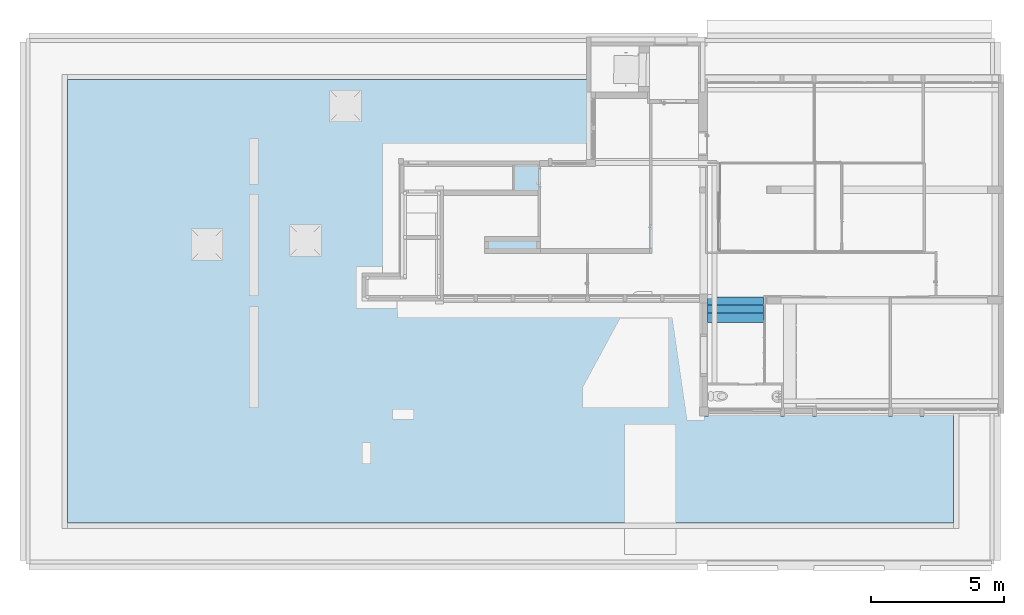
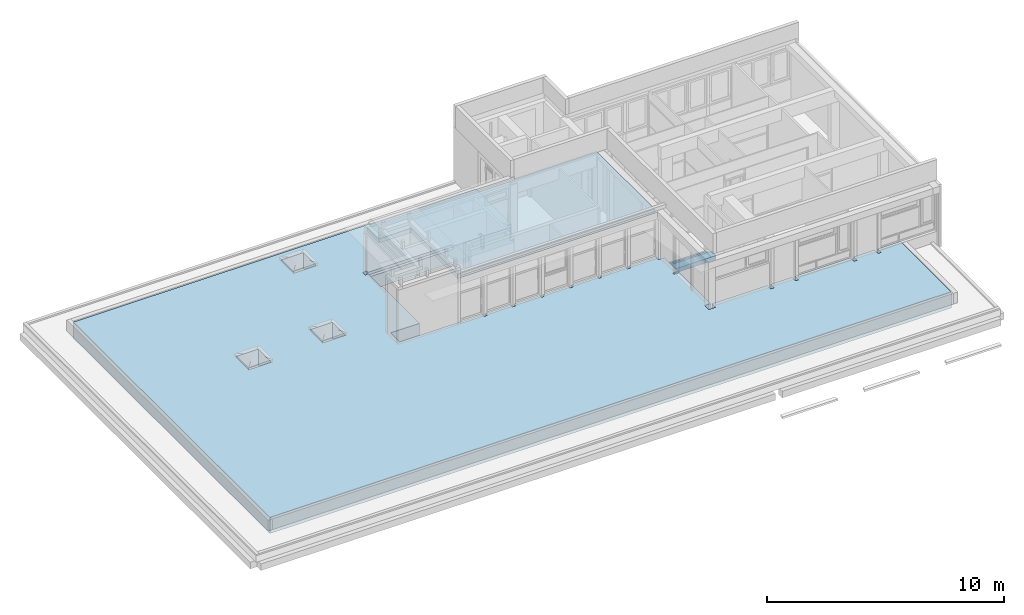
# One storey, part 37 of 49: 2 roofs, 1 stair.
"""IFC4 building model written with IfcOpenShell, lengths in metres."""

from ifc_helpers import new_model, entity, si_unit, converted_unit, derived_unit, direction, frame, origin, place, context, subcontext, project, spatial, polygons, material, layer, layer_set, type_object, element, save


model = new_model("IFC4")

# Units and contexts
model_context = context("Model", 3, precision=1e-05, world=origin(), true_north=direction((6.12303176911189e-17, 1.0)))
body_context = subcontext(model_context, "Body", "Model", "MODEL_VIEW")
ifc_project = project(units=[si_unit("LENGTHUNIT", "METRE"), si_unit("AREAUNIT", "SQUARE_METRE"), si_unit("VOLUMEUNIT", "CUBIC_METRE"), converted_unit("PLANEANGLEUNIT", "DEGREE", entity("IfcRatioMeasure", 0.0174532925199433), si_unit("PLANEANGLEUNIT", "RADIAN"), dimensions=[0, 0, 0, 0, 0, 0, 0]), si_unit("MASSUNIT", "GRAM", prefix="KILO"), derived_unit("MASSDENSITYUNIT", [(si_unit("MASSUNIT", "GRAM", prefix="KILO"), 1), (si_unit("LENGTHUNIT", "METRE"), -3)]), derived_unit("MOMENTOFINERTIAUNIT", [(si_unit("LENGTHUNIT", "METRE"), 4)]), si_unit("TIMEUNIT", "SECOND"), si_unit("FREQUENCYUNIT", "HERTZ"), si_unit("THERMODYNAMICTEMPERATUREUNIT", "DEGREE_CELSIUS"), derived_unit("THERMALTRANSMITTANCEUNIT", [(si_unit("MASSUNIT", "GRAM", prefix="KILO"), 1), (si_unit("THERMODYNAMICTEMPERATUREUNIT", "KELVIN"), -1), (si_unit("TIMEUNIT", "SECOND"), -3)]), derived_unit("VOLUMETRICFLOWRATEUNIT", [(si_unit("LENGTHUNIT", "METRE"), 3), (si_unit("TIMEUNIT", "SECOND"), -1)]), si_unit("ELECTRICCURRENTUNIT", "AMPERE"), si_unit("ELECTRICVOLTAGEUNIT", "VOLT"), si_unit("POWERUNIT", "WATT"), si_unit("FORCEUNIT", "NEWTON", prefix="KILO"), si_unit("ILLUMINANCEUNIT", "LUX"), si_unit("LUMINOUSFLUXUNIT", "LUMEN"), si_unit("LUMINOUSINTENSITYUNIT", "CANDELA"), derived_unit("USERDEFINED", [(si_unit("MASSUNIT", "GRAM", prefix="KILO"), -1), (si_unit("LENGTHUNIT", "METRE"), -2), (si_unit("TIMEUNIT", "SECOND"), 3), (si_unit("LUMINOUSFLUXUNIT", "LUMEN"), 1)]), derived_unit("LINEARVELOCITYUNIT", [(si_unit("LENGTHUNIT", "METRE"), 1), (si_unit("TIMEUNIT", "SECOND"), -1)]), si_unit("PRESSUREUNIT", "PASCAL"), derived_unit("USERDEFINED", [(si_unit("LENGTHUNIT", "METRE"), -2), (si_unit("MASSUNIT", "GRAM", prefix="KILO"), 1), (si_unit("TIMEUNIT", "SECOND"), -2)]), derived_unit("LINEARFORCEUNIT", [(si_unit("MASSUNIT", "GRAM", prefix="KILO"), 1), (si_unit("LENGTHUNIT", "METRE"), 1), (si_unit("TIMEUNIT", "SECOND"), -2), (si_unit("LENGTHUNIT", "METRE"), -1)]), derived_unit("PLANARFORCEUNIT", [(si_unit("MASSUNIT", "GRAM", prefix="KILO"), 1), (si_unit("LENGTHUNIT", "METRE"), 1), (si_unit("TIMEUNIT", "SECOND"), -2), (si_unit("LENGTHUNIT", "METRE"), -2)])], contexts=[model_context])

# Site, building, storey
site_placement = place(None, origin())
site = spatial("IfcSite", under=ifc_project, at=site_placement, Name="Default", CompositionType="ELEMENT")
building_placement = place(site_placement, origin())
building = spatial("IfcBuilding", under=site, at=building_placement, Name="HOTEL CONSULAIRE BOULOGNE SUR MER", CompositionType="ELEMENT")
storey_placement = place(building_placement, frame((0.0, 0.0, 6.81974152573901)))
storey = spatial("IfcBuildingStorey", under=building, at=storey_placement, Name="Niveau 2", CompositionType="ELEMENT", Elevation=6.81974152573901)

# Stair
stair_type = type_object("IfcStairType", Name="Escalier coulé sur place:Monobloc 2", PredefinedType="STRAIGHT_RUN_STAIR")
stair_placement = place(storey_placement, frame((11.6719435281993, -20.615909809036, 0.0)))
element("IfcStair", 1, at=stair_placement, inside=storey, type_object=stair_type, Name="Escalier coulé sur place:Escalier", ObjectType="Escalier coulé sur place:Monobloc 2", PredefinedType="STRAIGHT_RUN_STAIR", context=body_context, shape_type="Tessellation", body=[
    polygons([(2.09710613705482, 0.635658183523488, 0.13125), (2.09710613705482, 0.96565818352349, 0.13125), (6.49720277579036e-15, 0.965658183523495, 0.13125), (4.33146851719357e-15, 0.635658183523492, 0.13125), (2.09710613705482, 0.635658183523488, 0.101250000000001), (4.33146851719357e-15, 0.635658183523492, 0.101250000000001), (6.49720277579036e-15, 0.965658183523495, 0.101250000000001), (2.09710613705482, 0.96565818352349, 0.101250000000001)], [[[4, 1, 2, 3]], [[7, 8, 5, 6]], [[2, 1, 5, 8]], [[3, 2, 8, 7]], [[4, 3, 7, 6]], [[1, 4, 6, 5]]], closed=True),
    polygons([(2.09710613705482, 0.335658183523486, 0.297499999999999), (2.09710613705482, 0.665658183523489, 0.297499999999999), (4.33146851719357e-15, 0.665658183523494, 0.297499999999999), (2.16573425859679e-15, 0.335658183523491, 0.297499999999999), (2.09710613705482, 0.335658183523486, 0.2675), (2.16573425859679e-15, 0.335658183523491, 0.2675), (4.33146851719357e-15, 0.665658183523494, 0.2675), (2.09710613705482, 0.665658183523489, 0.2675)], [[[4, 1, 2, 3]], [[7, 8, 5, 6]], [[2, 1, 5, 8]], [[3, 2, 8, 7]], [[4, 3, 7, 6]], [[1, 4, 6, 5]]], closed=True),
    polygons([(2.09710613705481, 0.0, 0.46375), (2.09710613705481, 0.365658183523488, 0.46375), (2.16573425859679e-15, 0.365658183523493, 0.46375), (0.0, 4.33146851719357e-15, 0.46375), (2.09710613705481, 0.0, 0.43375), (0.0, 4.33146851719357e-15, 0.43375), (2.16573425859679e-15, 0.365658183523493, 0.43375), (2.09710613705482, 0.365658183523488, 0.43375)], [[[4, 1, 2, 3]], [[7, 8, 5, 6]], [[2, 1, 5, 8]], [[3, 2, 8, 7]], [[4, 3, 7, 6]], [[1, 4, 6, 5]]], closed=True),
    polygons([(2.09710613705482, 0.635658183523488, 0.101250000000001), (2.09710613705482, 0.935658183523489, 0.101250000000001), (6.49720277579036e-15, 0.935658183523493, 0.101250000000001), (4.33146851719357e-15, 0.635658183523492, 0.101250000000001), (2.09710613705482, 0.635658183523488, -0.0349999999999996), (2.09710613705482, 0.935658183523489, -0.0349999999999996), (6.49720277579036e-15, 0.935658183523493, -0.0349999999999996), (4.33146851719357e-15, 0.635658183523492, -0.0349999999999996), (2.09710613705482, 0.335658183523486, 0.2675), (2.09710613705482, 0.635658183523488, 0.2675), (6.49720277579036e-15, 0.635658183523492, 0.2675), (4.33146851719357e-15, 0.335658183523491, 0.2675), (2.09710613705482, 0.335658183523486, 0.061708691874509), (2.09710613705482, 0.510170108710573, -0.0349999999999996), (6.49720277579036e-15, 0.510170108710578, -0.0350000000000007), (4.33146851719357e-15, 0.335658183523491, 0.0617086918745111), (2.09710613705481, 0.0, 0.247719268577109), (0.0, 0.0, 0.247719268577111), (2.09710613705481, 0.0, 0.43375), (2.09710613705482, 0.335658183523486, 0.43375), (2.16573425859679e-15, 0.335658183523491, 0.43375), (0.0, 4.33146851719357e-15, 0.43375)], [[[4, 1, 2, 3]], [[12, 9, 10, 11]], [[22, 19, 20, 21]], [[2, 1, 10, 9, 20, 19, 17, 13, 14, 5, 6]], [[3, 2, 6, 7]], [[11, 10, 1, 4]], [[21, 20, 9, 12]], [[4, 3, 7, 8, 15, 16, 18, 22, 21, 12, 11]], [[8, 7, 6, 5, 14, 15]], [[16, 15, 14, 13, 17, 18]], [[19, 22, 18, 17]]], closed=True),
])

# Roofs
ifc_material_1 = material(Name="carrelage Ext")
ifc_layer_1 = layer(ifc_material_1, 0.05, Name="carrelage Ext")
ifc_material_2 = material(Name="plot")
ifc_layer_2 = layer(ifc_material_2, 0.45, Name="plot")
ifc_material_3 = material(Name="Protection humidité", Category="Isolation")
ifc_layer_3 = layer(ifc_material_3, 0.03, Name="Protection humidité", Category="Isolation")
ifc_material_4 = material(Name="Maçonnerie - Isolant", Category="Divers")
ifc_layer_4 = layer(ifc_material_4, 0.1, Name="Maçonnerie - Isolant", Category="Divers")
ifc_material_5 = material(Name="Béton - Béton coulé sur place", Category="Béton")
ifc_layer_5 = layer(ifc_material_5, 0.2, Name="Béton - Béton coulé sur place", Category="Béton")
ifc_layer_set_1 = layer_set([ifc_layer_1, ifc_layer_2, ifc_layer_3, ifc_layer_4, ifc_layer_5], Name="Toit de base:Toit - 200 mm 3")
roof_type_1 = type_object("IfcRoofType", Name="Toit de base:Toit - 200 mm 3", PredefinedType="NOTDEFINED")
roof_1_placement = place(storey_placement, frame((-12.3498681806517, -28.1378463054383, -0.187999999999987)))
element("IfcRoof", 2, at=roof_1_placement, inside=storey, type_object=roof_type_1, material=ifc_layer_set_1, Name="Toit de base:Toit - 200 mm 3", ObjectType="Toit de base:Toit - 200 mm 3", PredefinedType="NOTDEFINED", context=body_context, shape_type="Tessellation", body=[
    polygons([(11.2145032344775, 8.47293194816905, 0.0), (11.2145032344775, 8.47293194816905, 0.83), (13.977339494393, 8.47293194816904, 0.83), (14.107339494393, 8.47293194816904, 0.83), (15.2540797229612, 8.47293194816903, 0.83), (15.2540797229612, 8.47293194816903, 0.187999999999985), (14.107339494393, 8.47293194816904, 0.187999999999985), (14.029875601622, 8.47293194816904, 0.187999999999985), (14.029875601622, 8.47293194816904, 0.0), (16.6540797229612, 8.47293194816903, 0.83), (16.6540797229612, 8.47293194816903, 0.187999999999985), (15.3940797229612, 8.47293194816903, 0.187999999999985), (15.3940797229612, 8.47293194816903, 0.83), (18.0540797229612, 8.47293194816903, 0.83), (18.0540797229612, 8.47293194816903, 0.187999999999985), (16.7940797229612, 8.47293194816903, 0.187999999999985), (16.7940797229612, 8.47293194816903, 0.83), (19.4540797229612, 8.47293194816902, 0.83), (19.4540797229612, 8.47293194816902, 0.187999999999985), (18.1940797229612, 8.47293194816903, 0.187999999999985), (18.1940797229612, 8.47293194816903, 0.83), (20.8540797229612, 8.47293194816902, 0.83), (20.8540797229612, 8.47293194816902, 0.187999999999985), (19.5940797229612, 8.47293194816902, 0.187999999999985), (19.5940797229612, 8.47293194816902, 0.83), (22.2540797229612, 8.47293194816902, 0.83), (22.2540797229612, 8.47293194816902, 0.187999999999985), (20.9940797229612, 8.47293194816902, 0.187999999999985), (20.9940797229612, 8.47293194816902, 0.83), (23.7218117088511, 8.47293194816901, 0.83), (23.7218117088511, 8.47293194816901, 0.187999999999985), (22.3940797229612, 8.47293194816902, 0.187999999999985), (22.3940797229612, 8.47293194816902, 0.83), (24.0218117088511, 4.31074554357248, 0.0), (24.4263460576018, 4.31074554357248, 0.0), (24.6763460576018, 4.31074554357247, 0.0), (33.2527433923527, 4.31074554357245, 0.0), (33.2527433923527, 4.11074554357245, 0.0), (33.2527433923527, 0.0, 0.0), (-2.16573425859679e-15, 1.08286712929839e-13, 0.0), (2.59888111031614e-14, 16.6322125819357, 0.0), (19.4788484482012, 16.6322125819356, 0.0), (19.6588484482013, 16.6322125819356, 0.0), (19.6588484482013, 16.1670549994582, 0.0), (19.6588484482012, 13.6449353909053, 0.0), (19.6588484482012, 13.4249353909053, 0.0), (12.6415032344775, 13.4249353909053, 0.0), (12.6415032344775, 12.7026042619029, 0.0), (12.6415032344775, 12.5526042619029, 0.0), (12.6415032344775, 9.23322504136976, 0.0), (11.2145032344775, 9.23322504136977, 0.0), (14.029875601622, 8.27493649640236, 0.0), (15.1710449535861, 8.27493649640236, 0.0), (15.4710449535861, 8.27493649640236, 0.0), (19.3457411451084, 8.27493649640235, 0.0), (19.6823487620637, 8.27493649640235, 0.0), (22.6733460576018, 8.27493649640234, 0.0), (23.7171269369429, 8.27493649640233, 0.0), (23.7218117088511, 8.27493649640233, 0.0), (23.7218117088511, 8.45864628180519, 0.0), (23.7218117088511, 8.47293194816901, 0.0), (23.8218117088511, 8.47293194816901, 0.0), (24.0218117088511, 8.47293194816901, 0.0), (24.0218117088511, 8.08690965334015, 0.0), (24.0218117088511, 7.05990965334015, 0.0), (24.0218117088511, 6.95990965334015, 0.0), (24.0218117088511, 5.85508516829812, 0.0), (24.0218117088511, 5.77508516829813, 0.0), (9.48016884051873, 10.0429443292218, 0.0), (9.48016884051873, 11.1429443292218, 0.0), (8.38016884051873, 11.1429443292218, 0.0), (8.38016884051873, 10.0429443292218, 0.0), (5.78887961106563, 9.89226205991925, 0.0), (5.78887961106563, 10.9922620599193, 0.0), (4.68887961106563, 10.9922620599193, 0.0), (4.68887961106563, 9.89226205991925, 0.0), (10.9878618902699, 15.1027726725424, 0.0), (10.9878618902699, 16.2027726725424, 0.0), (9.88786189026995, 16.2027726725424, 0.0), (9.88786189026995, 15.1027726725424, 0.0), (11.2145032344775, 9.23322504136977, 0.83), (12.4915032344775, 9.23322504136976, 0.83), (12.6415032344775, 9.23322504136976, 0.83), (12.6415032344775, 12.3826042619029, 0.83), (12.5665032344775, 12.3826042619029, 0.83), (12.5665032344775, 13.4249353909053, 0.83), (12.5665032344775, 13.4690279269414, 0.83), (12.4343500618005, 13.4690279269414, 0.83), (12.4343500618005, 13.6790279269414, 0.83), (12.6243500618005, 13.6790279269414, 0.83), (12.6243500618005, 13.5749353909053, 0.83), (16.7208551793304, 13.5749353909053, 0.83), (16.7208551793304, 13.4249353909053, 0.83), (17.7118484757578, 13.4249353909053, 0.83), (18.0540797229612, 13.4249353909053, 0.83), (18.0540797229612, 13.670153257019, 0.83), (18.1940797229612, 13.670153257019, 0.83), (18.1940797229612, 13.4249353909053, 0.83), (19.4633359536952, 13.4249353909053, 0.83), (19.4633359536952, 13.6449353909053, 0.83), (19.4788484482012, 13.6449353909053, 0.83), (19.6588484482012, 13.6449353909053, 0.83), (19.6588484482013, 16.1670549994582, 0.83), (19.6588484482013, 16.6322125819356, 0.83), (19.4788484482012, 16.6322125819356, 0.83), (2.38230768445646e-14, 16.6322125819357, 0.83), (0.0, 1.08286712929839e-13, 0.83), (33.2527433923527, 0.0, 0.83), (33.2527433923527, 4.11074554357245, 0.83), (33.2527433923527, 4.31074554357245, 0.83), (32.1379095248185, 4.31074554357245, 0.83), (32.1379095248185, 4.11074554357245, 0.83), (32.1379095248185, 4.01074554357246, 0.83), (32.0039095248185, 4.01074554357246, 0.83), (32.0039095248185, 4.11074554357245, 0.83), (32.0039095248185, 4.31074554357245, 0.83), (30.9669095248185, 4.31074554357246, 0.83), (30.9669095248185, 4.11074554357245, 0.83), (30.9669095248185, 4.01074554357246, 0.83), (30.8169095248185, 4.01074554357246, 0.83), (30.8169095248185, 4.11074554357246, 0.83), (30.8169095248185, 4.31074554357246, 0.83), (28.1119095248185, 4.31074554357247, 0.83), (28.1119095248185, 4.11074554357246, 0.83), (28.1119095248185, 4.01074554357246, 0.83), (27.9619095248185, 4.01074554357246, 0.83), (27.9619095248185, 4.11074554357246, 0.83), (27.9619095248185, 4.31074554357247, 0.83), (26.9119095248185, 4.31074554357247, 0.83), (26.9119095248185, 4.11074554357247, 0.83), (26.9119095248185, 4.01074554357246, 0.83), (26.7619095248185, 4.01074554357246, 0.83), (26.7619095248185, 4.11074554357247, 0.83), (26.7619095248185, 4.31074554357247, 0.83), (24.0667768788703, 4.31074554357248, 0.83), (24.0667768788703, 4.11074554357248, 0.83), (24.0667768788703, 4.00893649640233, 0.83), (23.7267768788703, 4.00893649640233, 0.83), (23.7267768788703, 4.34893649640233, 0.83), (23.8218117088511, 4.34893649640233, 0.83), (24.0218117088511, 4.34893649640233, 0.83), (24.0218117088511, 8.24993649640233, 0.83), (23.8218117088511, 8.24993649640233, 0.83), (23.7218117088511, 8.24993649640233, 0.83), (22.3940797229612, 8.32293194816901, 0.83), (22.3940797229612, 8.31616550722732, 0.83), (22.2540797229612, 8.31616550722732, 0.83), (22.2540797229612, 8.32293194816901, 0.83), (20.9940797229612, 8.32293194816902, 0.83), (20.9940797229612, 8.31616550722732, 0.83), (20.8540797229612, 8.31616550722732, 0.83), (20.8540797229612, 8.32293194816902, 0.83), (19.5940797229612, 8.32293194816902, 0.83), (19.5940797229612, 8.31616550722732, 0.83), (19.4540797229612, 8.31616550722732, 0.83), (19.4540797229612, 8.32293194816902, 0.83), (18.1940797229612, 8.32293194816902, 0.83), (18.1940797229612, 8.31616550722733, 0.83), (18.0540797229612, 8.31616550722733, 0.83), (18.0540797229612, 8.32293194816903, 0.83), (16.7940797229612, 8.32293194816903, 0.83), (16.7940797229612, 8.31616550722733, 0.83), (16.6540797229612, 8.31616550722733, 0.83), (16.6540797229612, 8.32293194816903, 0.83), (15.3940797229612, 8.32293194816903, 0.83), (15.3940797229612, 8.31616550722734, 0.83), (15.2540797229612, 8.31616550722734, 0.83), (15.2540797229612, 8.32293194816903, 0.83), (9.48016884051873, 11.1429443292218, 0.83), (9.48016884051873, 10.0429443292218, 0.83), (8.38016884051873, 10.0429443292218, 0.83), (8.38016884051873, 11.1429443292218, 0.83), (5.78887961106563, 10.9922620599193, 0.83), (5.78887961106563, 9.89226205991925, 0.83), (4.68887961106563, 9.89226205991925, 0.83), (4.68887961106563, 10.9922620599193, 0.83), (10.9878618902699, 16.2027726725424, 0.83), (10.9878618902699, 15.1027726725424, 0.83), (9.88786189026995, 15.1027726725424, 0.83), (9.88786189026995, 16.2027726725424, 0.83), (23.7615064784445, 7.00014956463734, 0.83), (23.7615064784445, 7.09914956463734, 0.83), (23.8218117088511, 7.09914956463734, 0.83), (24.0124030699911, 7.09914956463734, 0.83), (24.0124030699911, 7.00014956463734, 0.83), (23.8218117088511, 7.00014956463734, 0.83), (-2.16573425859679e-15, 1.08286712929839e-13, 0.33), (2.38230768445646e-14, 16.6322125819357, 0.33), (33.2527433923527, 0.0, 0.33), (33.2527433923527, 4.31074554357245, 0.00299999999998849), (33.2527433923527, 4.31074554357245, 0.152999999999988), (24.0218117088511, 4.31074554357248, 0.00299999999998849), (24.0218117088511, 4.31074554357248, 0.152999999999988), (24.0667768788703, 4.31074554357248, 0.152999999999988), (26.7619095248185, 4.31074554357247, 0.187999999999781), (26.9119095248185, 4.31074554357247, 0.187999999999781), (27.9619095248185, 4.31074554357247, 0.187999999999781), (28.1119095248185, 4.31074554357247, 0.187999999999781), (30.8169095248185, 4.31074554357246, 0.187999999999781), (30.9669095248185, 4.31074554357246, 0.187999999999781), (32.0039095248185, 4.31074554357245, 0.187999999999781), (32.1379095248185, 4.31074554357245, 0.187999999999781), (24.0218117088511, 8.47293194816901, 0.00299999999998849), (24.0218117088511, 8.47293194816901, 0.152999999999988), (24.0218117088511, 8.24993649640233, 0.152999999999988), (24.0218117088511, 4.34893649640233, 0.152999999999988), (23.7218117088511, 8.47293194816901, 0.00299999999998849), (23.7218117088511, 8.47293194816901, 0.152999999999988), (12.6415032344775, 13.4249353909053, 0.687999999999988), (12.6415032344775, 12.7026042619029, 0.687999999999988), (12.6415032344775, 12.5526042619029, 0.687999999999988), (12.6415032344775, 12.3826042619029, 0.687999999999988), (19.6588484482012, 13.4249353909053, 0.00299999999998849), (19.6588484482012, 13.4249353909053, 0.152999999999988), (19.4633359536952, 13.4249353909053, 0.152999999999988), (19.4633359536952, 13.4249353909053, 0.187999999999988), (18.1940797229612, 13.4249353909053, 0.187999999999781), (18.0540797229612, 13.4249353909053, 0.18799999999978), (16.7208551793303, 13.4249353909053, 0.687999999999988), (19.6588484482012, 13.6449353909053, 0.187999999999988), (19.6588484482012, 13.6449353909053, 0.152999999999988), (19.4633359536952, 13.6449353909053, 0.152999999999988), (18.1940797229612, 13.670153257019, 0.187999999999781), (18.0540797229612, 13.670153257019, 0.187999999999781), (12.6243500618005, 13.4690279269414, 0.199999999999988), (12.6243500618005, 13.6790279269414, 0.199999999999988), (12.4343500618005, 13.6790279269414, 0.199999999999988), (12.4343500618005, 13.4690279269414, 0.199999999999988), (12.6243500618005, 13.4690279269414, 0.687999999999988), (12.6243500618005, 13.5749353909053, 0.687999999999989), (12.5665032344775, 13.4690279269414, 0.687999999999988), (12.5665032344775, 12.3826042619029, 0.687999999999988), (16.7208551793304, 13.5749353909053, 0.687999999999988), (24.0124030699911, 7.09914956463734, 0.187999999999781), (23.7615064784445, 7.09914956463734, 0.187999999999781), (23.7615064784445, 7.00014956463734, 0.187999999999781), (24.0124030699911, 7.00014956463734, 0.187999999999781), (14.029875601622, 8.27493649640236, 0.187999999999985), (14.029875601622, 8.27493649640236, 0.157999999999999), (23.7218117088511, 8.27493649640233, 0.187999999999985), (23.7218117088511, 8.27493649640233, 0.152999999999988), (15.2540797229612, 8.31616550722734, 0.187999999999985), (15.3940797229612, 8.31616550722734, 0.187999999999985), (16.6540797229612, 8.31616550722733, 0.187999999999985), (16.7940797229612, 8.31616550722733, 0.187999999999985), (18.0540797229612, 8.31616550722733, 0.187999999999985), (18.1940797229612, 8.31616550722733, 0.187999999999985), (19.4540797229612, 8.31616550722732, 0.187999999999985), (19.5940797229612, 8.31616550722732, 0.187999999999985), (20.8540797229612, 8.31616550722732, 0.187999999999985), (20.9940797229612, 8.31616550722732, 0.187999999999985), (22.2540797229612, 8.31616550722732, 0.187999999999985), (22.3940797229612, 8.31616550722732, 0.187999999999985), (23.7267768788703, 4.00893649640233, 0.152999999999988), (24.0667768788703, 4.00893649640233, 0.152999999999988), (23.7267768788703, 4.34893649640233, 0.152999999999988), (26.9119095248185, 4.01074554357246, 0.187999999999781), (26.7619095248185, 4.01074554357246, 0.187999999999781), (28.1119095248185, 4.01074554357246, 0.187999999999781), (27.9619095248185, 4.01074554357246, 0.187999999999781), (30.9669095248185, 4.01074554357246, 0.187999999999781), (30.8169095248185, 4.01074554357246, 0.187999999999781), (32.1379095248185, 4.01074554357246, 0.187999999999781), (32.0039095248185, 4.01074554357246, 0.187999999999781), (23.7218117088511, 8.24993649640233, 0.152999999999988)], [[[6, 7, 8, 9, 1, 2, 3, 4, 5]], [[10, 11, 12, 13]], [[14, 15, 16, 17]], [[18, 19, 20, 21]], [[22, 23, 24, 25]], [[26, 27, 28, 29]], [[30, 31, 32, 33]], [[104, 43, 42, 41, 188, 106, 105]], [[190, 37, 36, 35, 34, 192, 193, 194, 135, 134, 195, 196, 129, 128, 197, 198, 123, 122, 199, 200, 117, 116, 201, 202, 111, 110, 191]], [[203, 63, 62, 61, 207, 208, 204]], [[171, 170, 69, 72]], [[175, 174, 73, 76]], [[179, 178, 77, 80]], [[88, 87, 231, 229, 225, 228]], [[84, 212, 232, 85]], [[237, 236, 181, 186, 185]], [[53, 52, 239, 238, 240, 241, 59, 58, 57, 56, 55, 54]], [[255, 254, 138, 137]], [[258, 132, 131, 257]], [[259, 260, 126, 125]], [[261, 262, 120, 119]], [[263, 264, 114, 113]], [[205, 265, 144, 143, 142]], [[253, 252, 147, 146]], [[251, 250, 151, 150]], [[249, 248, 155, 154]], [[247, 246, 159, 158]], [[245, 244, 163, 162]], [[243, 242, 167, 166]], [[1, 9, 52, 53, 54, 55, 56, 57, 58, 59, 60, 61, 62, 63, 64, 65, 66, 67, 68, 34, 35, 36, 37, 38, 39, 40, 41, 42, 43, 44, 45, 46, 47, 48, 49, 50, 51], [72, 69, 70, 71], [73, 74, 75, 76], [79, 80, 77, 78]], [[238, 8, 7, 6, 242, 243, 12, 11, 244, 245, 16, 15, 246, 247, 20, 19, 248, 249, 24, 23, 250, 251, 28, 27, 252, 253, 32, 31, 240]], [[3, 2, 81, 82, 83, 84, 85, 86, 87, 88, 89, 90, 91, 92, 93, 94, 95, 96, 97, 98, 99, 100, 101, 102, 103, 104, 105, 106, 107, 108, 109, 110, 111, 112, 113, 114, 115, 116, 117, 118, 119, 120, 121, 122, 123, 124, 125, 126, 127, 128, 129, 130, 131, 132, 133, 134, 135, 136, 137, 138, 139, 140, 141, 142, 143, 144, 30, 33, 145, 146, 147, 148, 26, 29, 149, 150, 151, 152, 22, 25, 153, 154, 155, 156, 18, 21, 157, 158, 159, 160, 14, 17, 161, 162, 163, 164, 10, 13, 165, 166, 167, 168, 5, 4], [181, 182, 183, 184, 185, 186], [174, 175, 176, 173], [171, 172, 169, 170], [179, 180, 177, 178]], [[221, 222, 215, 214]], [[217, 223, 224, 218]], [[226, 227, 228, 225]], [[211, 210, 209, 219, 233, 230, 229, 231, 232, 212]], [[235, 236, 237, 234]], [[193, 206, 256, 254, 255, 194]], [[257, 196, 195, 258]], [[259, 198, 197, 260]], [[200, 199, 262, 261]], [[202, 201, 264, 263]], [[205, 204, 208, 241, 265]], [[188, 41, 40, 187, 107, 106]], [[170, 169, 70, 69]], [[174, 173, 74, 73]], [[178, 177, 78, 77]], [[223, 217, 98, 97]], [[91, 90, 226, 225, 229, 230]], [[93, 92, 233, 219]], [[234, 237, 185, 184]], [[60, 59, 241, 208, 207, 61]], [[194, 255, 137, 136, 135]], [[196, 257, 131, 130, 129]], [[198, 259, 125, 124, 123]], [[200, 261, 119, 118, 117]], [[202, 263, 113, 112, 111]], [[32, 253, 146, 145, 33]], [[28, 251, 150, 149, 29]], [[24, 249, 154, 153, 25]], [[20, 247, 158, 157, 21]], [[16, 245, 162, 161, 17]], [[12, 243, 166, 165, 13]], [[187, 40, 39, 189, 108, 107]], [[81, 51, 50, 83, 82]], [[47, 46, 213, 214, 215, 216, 99, 98, 217, 218, 95, 94, 93, 219, 209]], [[169, 172, 71, 70]], [[173, 176, 75, 74]], [[177, 180, 79, 78]], [[220, 102, 101, 100, 222, 221]], [[223, 97, 96, 224]], [[227, 226, 90, 89]], [[91, 230, 233, 92]], [[235, 234, 184, 183, 182]], [[256, 206, 141, 140, 139]], [[39, 38, 37, 190, 191, 110, 109, 108, 189]], [[206, 193, 192, 34, 68, 67, 66, 65, 64, 63, 203, 204, 205, 142, 141]], [[2, 1, 51, 81]], [[50, 49, 48, 47, 209, 210, 211, 212, 84, 83]], [[46, 45, 44, 43, 104, 103, 102, 220, 221, 214, 213]], [[172, 171, 72, 71]], [[176, 175, 76, 75]], [[180, 179, 80, 79]], [[216, 215, 222, 100, 99]], [[218, 224, 96, 95]], [[227, 89, 88, 228]], [[86, 85, 232, 231, 87]], [[236, 235, 182, 181]], [[239, 52, 9, 8, 238]], [[254, 256, 139, 138]], [[258, 195, 134, 133, 132]], [[260, 197, 128, 127, 126]], [[262, 199, 122, 121, 120]], [[264, 201, 116, 115, 114]], [[240, 31, 30, 144, 265, 241]], [[252, 27, 26, 148, 147]], [[250, 23, 22, 152, 151]], [[248, 19, 18, 156, 155]], [[246, 15, 14, 160, 159]], [[244, 11, 10, 164, 163]], [[242, 6, 5, 168, 167]]], closed=True),
])
ifc_layer_6 = layer(ifc_material_3, 0.03, Name="Protection humidité", Category="Isolation")
ifc_layer_7 = layer(ifc_material_4, 0.1, Name="Maçonnerie - Isolant", Category="Divers")
ifc_layer_8 = layer(ifc_material_5, 0.1, Name="Béton - Béton coulé sur place", Category="Béton")
ifc_layer_set_2 = layer_set([ifc_layer_6, ifc_layer_7, ifc_layer_8], Name="Toit de base:Toit - 100 mm")
roof_type_2 = type_object("IfcRoofType", Name="Toit de base:Toit - 100 mm", PredefinedType="NOTDEFINED")
roof_2_placement = place(storey_placement, frame((0.191635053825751, -19.5649143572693, 2.822)))
element("IfcRoof", 3, at=roof_2_placement, inside=storey, type_object=roof_type_2, material=ifc_layer_set_2, Name="Toit de base:Toit - 100 mm", ObjectType="Toit de base:Toit - 100 mm", PredefinedType="NOTDEFINED", context=body_context, shape_type="Tessellation", body=[
    polygons([(1.56583625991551, 1.29944055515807e-14, 1.08286712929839e-15), (1.56583625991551, 3.92967231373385, 1.08286712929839e-15), (0.0999999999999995, 3.92967231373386, 1.08286712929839e-15), (-8.12150346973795e-16, 3.92967231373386, 1.08286712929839e-15), (8.12150346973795e-16, 4.92700344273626, 1.08286712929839e-15), (0.100000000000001, 4.92700344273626, 1.08286712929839e-15), (6.92183271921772, 4.92700344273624, 1.08286712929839e-15), (6.92183271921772, 4.80200344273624, 1.08286712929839e-15), (7.27183271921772, 4.80200344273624, 1.08286712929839e-15), (7.27183271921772, 4.84182742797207, 1.08286712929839e-15), (9.30932352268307, 4.84182742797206, 1.08286712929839e-15), (9.39932352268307, 4.84182742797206, 1.08286712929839e-15), (11.1493235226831, 4.84182742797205, 1.08286712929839e-15), (11.1616326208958, 4.84182742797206, 1.08286712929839e-15), (11.1616326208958, 4.92700344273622, 1.08286712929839e-15), (11.1902736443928, 4.92700344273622, 1.08286712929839e-15), (11.1902736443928, 4.85411598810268, 1.08286712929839e-15), (11.1902736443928, 4.77402682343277, 1.08286712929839e-15), (11.1902736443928, 0.0, 1.08286712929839e-15), (7.00954171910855, 4.33146851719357e-15, 1.08286712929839e-15), (6.93954171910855, 4.33146851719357e-15, 1.08286712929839e-15), (11.1902736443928, 4.92700344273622, 0.23), (7.11734521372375, 4.92700344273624, 0.23), (0.100000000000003, 4.92700344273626, 0.23), (8.12150346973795e-16, 4.92700344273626, 0.23), (-8.12150346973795e-16, 3.92967231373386, 0.23), (0.0999999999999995, 3.92967231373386, 0.23), (1.56583625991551, 3.92967231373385, 0.23), (1.56583625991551, 1.29944055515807e-14, 0.23), (11.1902736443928, 0.0, 0.23), (11.1902736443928, 4.84182742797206, 0.23), (11.1902736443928, 4.85411598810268, 0.23), (11.1902736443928, 4.92700344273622, 0.135000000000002), (11.1616326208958, 4.92700344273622, 0.135000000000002), (7.11734521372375, 4.92700344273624, 0.135000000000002), (6.96723262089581, 4.92700344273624, 0.135000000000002), (6.96723262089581, 4.92700344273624, 0.035000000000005), (6.92183271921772, 4.92700344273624, 0.035000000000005), (7.27183271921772, 4.80200344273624, 0.035000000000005), (7.27183271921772, 4.84182742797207, 0.035000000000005), (6.92183271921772, 4.80200344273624, 0.035000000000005), (6.96723262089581, 4.84182742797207, 0.035000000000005), (6.96723262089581, 4.84182742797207, 0.135000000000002), (11.1616326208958, 4.84182742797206, 0.135000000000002)], [[[21, 1, 2, 3, 4, 5, 6, 7, 8, 9, 10, 11, 12, 13, 14, 15, 16, 17, 18, 19, 20]], [[37, 42, 40, 39, 41, 38]], [[44, 43, 36, 35, 34]], [[24, 25, 26, 27, 28, 29, 30, 31, 32, 22, 23]], [[28, 2, 1, 29]], [[25, 5, 4, 26]], [[9, 39, 40, 10]], [[44, 34, 15, 14]], [[26, 4, 3, 2, 28, 27]], [[29, 1, 21, 20, 19, 30]], [[33, 16, 15, 34, 35, 36, 37, 38, 7, 6, 5, 25, 24, 23, 22]], [[9, 8, 41, 39]], [[44, 14, 13, 12, 11, 10, 40, 42, 43]], [[19, 18, 17, 16, 33, 22, 32, 31, 30]], [[8, 7, 38, 41]], [[42, 37, 36, 43]]], closed=True),
])

save(model, "model.ifc")
